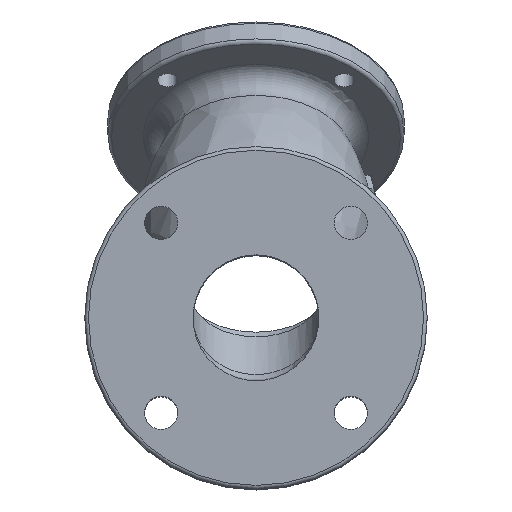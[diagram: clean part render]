
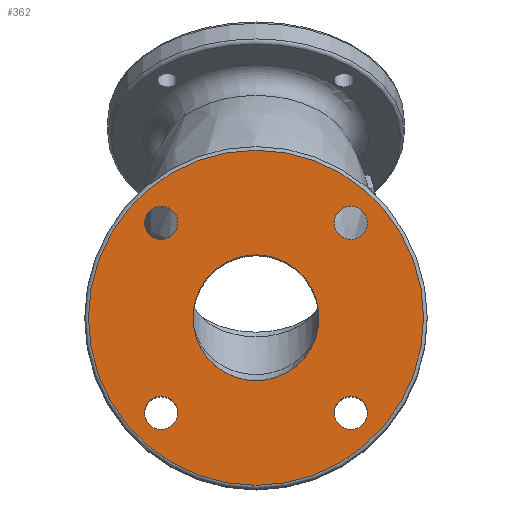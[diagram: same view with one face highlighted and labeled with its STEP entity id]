
A CAD part, top view. The second image highlights one B-rep face of the part: STEP entity #362.
In plain terms, the highlighted planar face has unit normal (0, 0, 1).
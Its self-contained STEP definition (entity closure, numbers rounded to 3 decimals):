
#362 = ADVANCED_FACE( '', ( #850, #851, #852, #853, #854, #855 ), #856, .F. );
#850 = FACE_BOUND( '', #3464, .T. );
#851 = FACE_BOUND( '', #3465, .T. );
#852 = FACE_OUTER_BOUND( '', #3466, .T. );
#853 = FACE_BOUND( '', #3467, .T. );
#854 = FACE_BOUND( '', #3468, .T. );
#855 = FACE_BOUND( '', #3469, .T. );
#856 = PLANE( '', #3470 );
#3464 = EDGE_LOOP( '', ( #9584 ) );
#3465 = EDGE_LOOP( '', ( #9585 ) );
#3466 = EDGE_LOOP( '', ( #9586 ) );
#3467 = EDGE_LOOP( '', ( #9587 ) );
#3468 = EDGE_LOOP( '', ( #9588 ) );
#3469 = EDGE_LOOP( '', ( #9589 ) );
#3470 = AXIS2_PLACEMENT_3D( '', #9590, #9591, #9592 );
#9584 = ORIENTED_EDGE( '', *, *, #10689, .T. );
#9585 = ORIENTED_EDGE( '', *, *, #10686, .T. );
#9586 = ORIENTED_EDGE( '', *, *, #10726, .T. );
#9587 = ORIENTED_EDGE( '', *, *, #10433, .F. );
#9588 = ORIENTED_EDGE( '', *, *, #10634, .T. );
#9589 = ORIENTED_EDGE( '', *, *, #10605, .T. );
#9590 = CARTESIAN_POINT( '', ( 0., 0., 285. ) );
#9591 = DIRECTION( '', ( 0., 0., -1. ) );
#9592 = DIRECTION( '', ( -1., 0., 0. ) );
#10433 = EDGE_CURVE( '', #10985, #10985, #10986, .F. );
#10605 = EDGE_CURVE( '', #11280, #11280, #11281, .T. );
#10634 = EDGE_CURVE( '', #11327, #11327, #11328, .T. );
#10686 = EDGE_CURVE( '', #11402, #11402, #11403, .T. );
#10689 = EDGE_CURVE( '', #11407, #11407, #11408, .T. );
#10726 = EDGE_CURVE( '', #11458, #11458, #11459, .F. );
#10985 = VERTEX_POINT( '', #12232 );
#10986 = CIRCLE( '', #12233, 34. );
#11280 = VERTEX_POINT( '', #14154 );
#11281 = CIRCLE( '', #14155, 9. );
#11327 = VERTEX_POINT( '', #14608 );
#11328 = CIRCLE( '', #14609, 9. );
#11402 = VERTEX_POINT( '', #15013 );
#11403 = CIRCLE( '', #15014, 9. );
#11407 = VERTEX_POINT( '', #15018 );
#11408 = CIRCLE( '', #15019, 9. );
#11458 = VERTEX_POINT( '', #15567 );
#11459 = CIRCLE( '', #15568, 90.5 );
#12232 = CARTESIAN_POINT( '', ( -34., 0., 285. ) );
#12233 = AXIS2_PLACEMENT_3D( '', #17377, #17378, #17379 );
#14154 = CARTESIAN_POINT( '', ( -42.265, 51.265, 285. ) );
#14155 = AXIS2_PLACEMENT_3D( '', #17546, #17547, #17548 );
#14608 = CARTESIAN_POINT( '', ( 60.265, -51.265, 285. ) );
#14609 = AXIS2_PLACEMENT_3D( '', #17568, #17569, #17570 );
#15013 = CARTESIAN_POINT( '', ( 60.265, 51.265, 285. ) );
#15014 = AXIS2_PLACEMENT_3D( '', #17605, #17606, #17607 );
#15018 = CARTESIAN_POINT( '', ( -42.265, -51.265, 285. ) );
#15019 = AXIS2_PLACEMENT_3D( '', #17611, #17612, #17613 );
#15567 = CARTESIAN_POINT( '', ( -90.5, 0., 285. ) );
#15568 = AXIS2_PLACEMENT_3D( '', #17636, #17637, #17638 );
#17377 = CARTESIAN_POINT( '', ( 0., 0., 285. ) );
#17378 = DIRECTION( '', ( 0., 0., -1. ) );
#17379 = DIRECTION( '', ( -1., 0., 0. ) );
#17546 = CARTESIAN_POINT( '', ( -51.265, 51.265, 285. ) );
#17547 = DIRECTION( '', ( 0., 0., -1. ) );
#17548 = DIRECTION( '', ( 1., 0., 0. ) );
#17568 = CARTESIAN_POINT( '', ( 51.265, -51.265, 285. ) );
#17569 = DIRECTION( '', ( 0., 0., -1. ) );
#17570 = DIRECTION( '', ( 1., 0., 0. ) );
#17605 = CARTESIAN_POINT( '', ( 51.265, 51.265, 285. ) );
#17606 = DIRECTION( '', ( 0., 0., -1. ) );
#17607 = DIRECTION( '', ( 1., 0., 0. ) );
#17611 = CARTESIAN_POINT( '', ( -51.265, -51.265, 285. ) );
#17612 = DIRECTION( '', ( 0., 0., -1. ) );
#17613 = DIRECTION( '', ( 1., 0., 0. ) );
#17636 = CARTESIAN_POINT( '', ( 0., 0., 285. ) );
#17637 = DIRECTION( '', ( 0., 0., -1. ) );
#17638 = DIRECTION( '', ( -1., 0., 0. ) );
